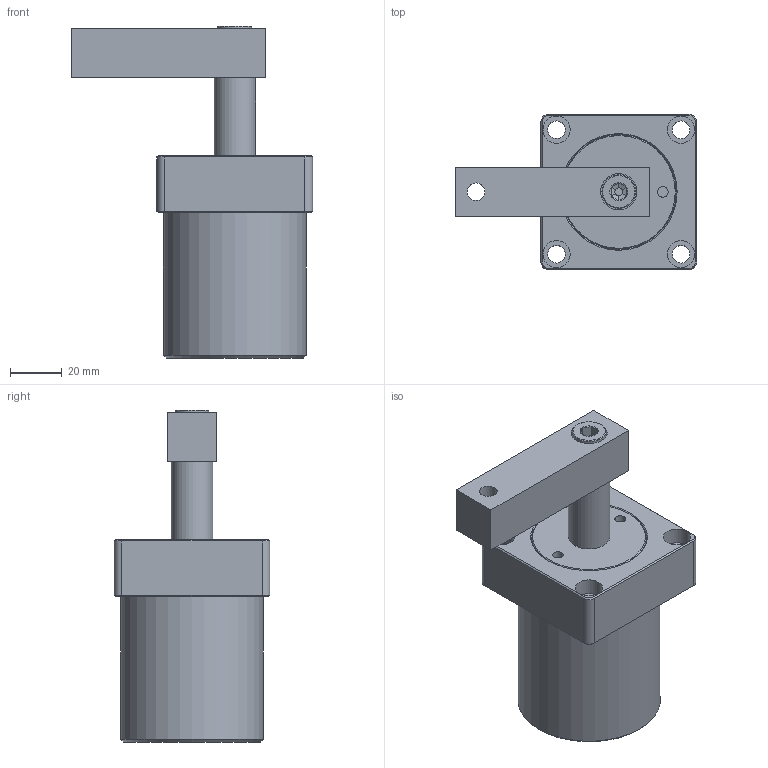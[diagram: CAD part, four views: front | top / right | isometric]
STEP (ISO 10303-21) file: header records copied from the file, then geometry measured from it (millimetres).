
FILE_DESCRIPTION(/* description */ ('Unknown'),/* implementation_level */ '2;1');
FILE_NAME(/* name */ 'ASC-FA40S-A',/* time_stamp */ '2019-05-20T10:28:30+08:00',/* author */ ('Unknown'),/* organization */ ('Unknown'),/* preprocessor_version */ 'ST-DEVELOPER v16.7',/* originating_system */ 'DEX',/* authorisation */ $);
FILE_SCHEMA (('AUTOMOTIVE_DESIGN {1 0 10303 214 3 1 1}'));
Length unit declared in the file: millimetre
Products named in the file (5): ASC-FA40S-A; ASC-FA40S-CYLINDER; ASC-4002-S-AXLE CENTRE; ASC-40S-A; ASC-4002-S-THREAD
Assembly tree (4 placements, depth 2):
  ASC-FA40S-A
    ASC-FA40S-CYLINDER
    ASC-4002-S-AXLE CENTRE
    ASC-40S-A
    ASC-4002-S-THREAD
Bounding box: 93 x 60 x 128 mm (x, y, z)
Volume: 205232.3 mm3; surface area: 48623.7 mm2
Topology: 4 solids, 4 shells, 109 faces, 216 edges, 133 vertices
Faces by surface type: plane 48, cylinder 27, cone 25, bspline 6, torus 3
Full cylindrical faces by diameter (mm): 4.1 x2, 6.8 x5, 8 x2, 9 x1, 9.147 x2, 10.5 x4, 13 x1, 14 x1, 16 x2, 40 x2, 55 x1
Entity records: 3471 total; most frequent: CARTESIAN_POINT 532, DIRECTION 460, ORIENTED_EDGE 332, AXIS2_PLACEMENT_3D 198, EDGE_LOOP 176, FACE_BOUND 176, EDGE_CURVE 166, VERTEX_POINT 120
